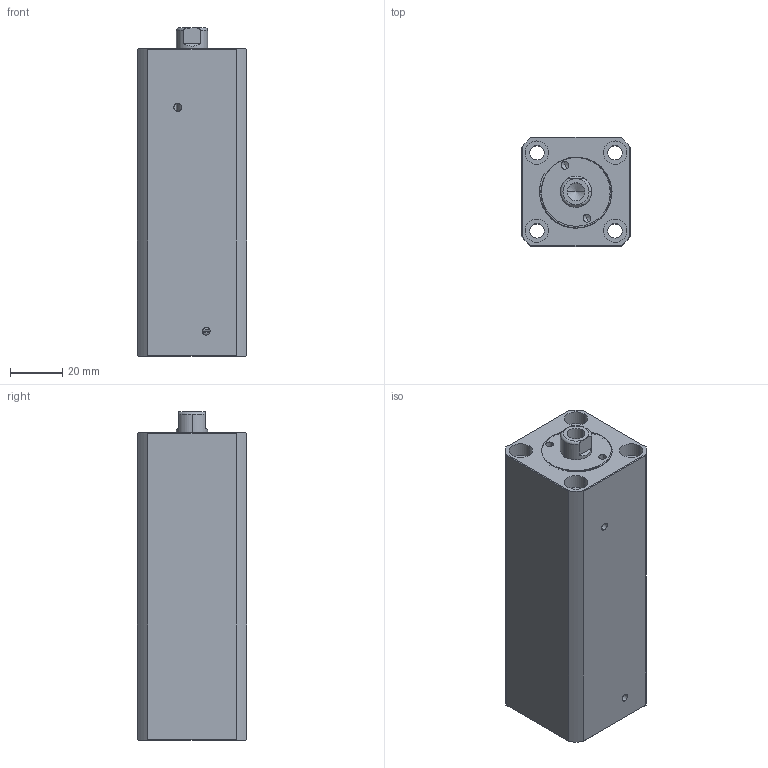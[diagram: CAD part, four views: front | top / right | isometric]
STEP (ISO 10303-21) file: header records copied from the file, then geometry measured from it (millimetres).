
FILE_DESCRIPTION (( 'STEP AP214' ), '1' );
FILE_NAME ('chtb-sdmb20x75_asm.STEP', '2018-05-18T08:29:50', ( 'Windows' ), ( 'Microsoft' ), 'SwSTEP 2.0', 'SolidWorks 2015', '' );
FILE_SCHEMA (( 'AUTOMOTIVE_DESIGN' ));
Length unit declared in the file: millimetre
Products named in the file (4): QG_3; CHTB-SDMB20X75NHSG; CHTB-SDMB20X75NBT; chtb-sdmb20x75_asm
Assembly tree (3 placements, depth 2):
  chtb-sdmb20x75_asm
    CHTB-SDMB20X75NBT
    CHTB-SDMB20X75NHSG
    QG_3
Bounding box: 42 x 42 x 126 mm (x, y, z)
Volume: 174277.7 mm3; surface area: 49638.8 mm2
Topology: 3 solids, 3 shells, 201 faces, 535 edges, 354 vertices
Faces by surface type: cylinder 106, plane 43, torus 25, bspline 21, cone 6
Entity records: 11558 total; most frequent: CARTESIAN_POINT 6663, ORIENTED_EDGE 1058, DIRECTION 922, EDGE_CURVE 529, AXIS2_PLACEMENT_3D 388, VERTEX_POINT 354, EDGE_LOOP 239, CIRCLE 202
